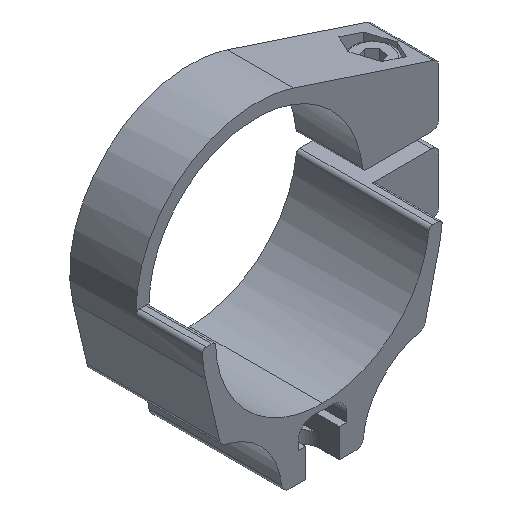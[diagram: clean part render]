
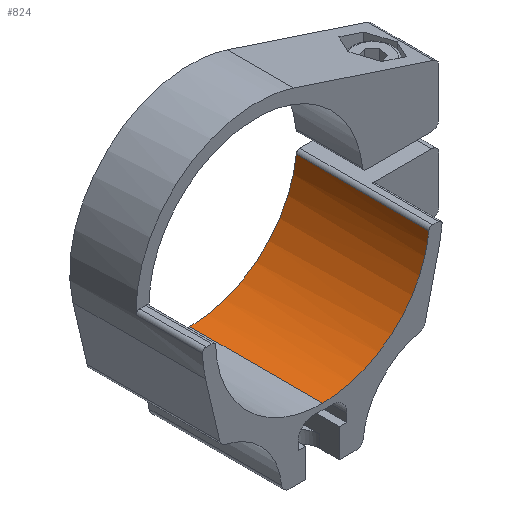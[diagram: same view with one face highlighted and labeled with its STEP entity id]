
A CAD part, isometric view. The second image highlights one B-rep face of the part: STEP entity #824.
In plain terms, the highlighted face is a revolution surface.
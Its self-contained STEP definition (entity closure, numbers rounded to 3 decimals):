
#824=ADVANCED_FACE('',(#1651),#1652,.T.);
#1651=FACE_OUTER_BOUND('',#2538,.T.);
#1652=SURFACE_OF_REVOLUTION('',#2539,#2540);
#2538=EDGE_LOOP('',(#5038,#5039,#5040,#5041));
#2539=B_SPLINE_CURVE_WITH_KNOTS('',1,(#5042,#5043),.UNSPECIFIED.,.F.,.F.,(2,2),(0.0,1.0),.UNSPECIFIED.);
#2540=AXIS1_PLACEMENT('',#5044,#5045);
#5038=ORIENTED_EDGE('',*,*,#6392,.T.);
#5039=ORIENTED_EDGE('',*,*,#6393,.T.);
#5040=ORIENTED_EDGE('',*,*,#6318,.F.);
#5041=ORIENTED_EDGE('',*,*,#6354,.F.);
#5042=CARTESIAN_POINT('',(0.0,9.0,-14.5));
#5043=CARTESIAN_POINT('',(0.0,-9.0,-14.5));
#5044=CARTESIAN_POINT('',(0.0,9.0,0.0));
#5045=DIRECTION('',(-0.0,1.0,-0.0));
#6318=EDGE_CURVE('',#7889,#7891,#7892,.T.);
#6354=EDGE_CURVE('',#7952,#7889,#7954,.T.);
#6392=EDGE_CURVE('',#7952,#8016,#8017,.T.);
#6393=EDGE_CURVE('',#8016,#7891,#8018,.T.);
#7889=VERTEX_POINT('',#10156);
#7891=VERTEX_POINT('',#10198);
#7892=B_SPLINE_CURVE_WITH_KNOTS('',3,(#10199,#10200,#10201,#10202,#10203,#10204,#10205,#10206,#10207,#10208,#10209,#10210,#10211,#10212,#10213,#10214,#10215,#10216,#10217,#10218,#10219,#10220,#10221,#10222),.UNSPECIFIED.,.F.,.F.,(4,1,1,1,1,1,1,1,1,1,1,1,1,1,1,1,1,1,1,1,1,4),(0.0,0.026,0.053,0.079,0.105,0.131,0.158,0.184,0.276,0.368,0.46,0.552,0.735,0.919,1.011,1.103,1.195,1.287,1.333,1.379,1.425,1.471),.UNSPECIFIED.);
#7952=VERTEX_POINT('',#10541);
#7954=B_SPLINE_CURVE_WITH_KNOTS('',1,(#10553,#10554),.UNSPECIFIED.,.F.,.F.,(2,2),(-1.0,0.0),.UNSPECIFIED.);
#8016=VERTEX_POINT('',#10745);
#8017=(B_SPLINE_CURVE(3,(#10747,#10748,#10749,#10750),.UNSPECIFIED.,.F.,.F.)B_SPLINE_CURVE_WITH_KNOTS((4,4),(-1.471,0.0),.UNSPECIFIED.)RATIONAL_B_SPLINE_CURVE((1.0,0.828,0.828,1.0))BOUNDED_CURVE()REPRESENTATION_ITEM('')GEOMETRIC_REPRESENTATION_ITEM()CURVE());
#8018=B_SPLINE_CURVE_WITH_KNOTS('',1,(#10757,#10758),.UNSPECIFIED.,.F.,.F.,(2,2),(-1.0,0.0),.UNSPECIFIED.);
#10156=CARTESIAN_POINT('',(0.,9.0,-14.5));
#10198=CARTESIAN_POINT('',(14.427,9.0,-1.45));
#10199=CARTESIAN_POINT('',(0.,9.0,-14.5));
#10200=CARTESIAN_POINT('',(0.127,9.0,-14.499));
#10201=CARTESIAN_POINT('',(0.381,9.0,-14.497));
#10202=CARTESIAN_POINT('',(0.762,9.0,-14.482));
#10203=CARTESIAN_POINT('',(1.142,9.0,-14.457));
#10204=CARTESIAN_POINT('',(1.52,9.0,-14.422));
#10205=CARTESIAN_POINT('',(1.898,9.0,-14.377));
#10206=CARTESIAN_POINT('',(2.275,9.0,-14.322));
#10207=CARTESIAN_POINT('',(2.963,9.0,-14.203));
#10208=CARTESIAN_POINT('',(3.953,9.0,-13.972));
#10209=CARTESIAN_POINT('',(5.219,9.0,-13.55));
#10210=CARTESIAN_POINT('',(6.441,9.0,-13.014));
#10211=CARTESIAN_POINT('',(7.996,9.0,-12.153));
#10212=CARTESIAN_POINT('',(9.782,9.0,-10.814));
#10213=CARTESIAN_POINT('',(11.292,9.0,-9.171));
#10214=CARTESIAN_POINT('',(12.305,9.0,-7.71));
#10215=CARTESIAN_POINT('',(12.96,9.0,-6.548));
#10216=CARTESIAN_POINT('',(13.507,9.0,-5.331));
#10217=CARTESIAN_POINT('',(13.867,9.0,-4.278));
#10218=CARTESIAN_POINT('',(14.096,9.0,-3.42));
#10219=CARTESIAN_POINT('',(14.238,9.,-2.769));
#10220=CARTESIAN_POINT('',(14.352,9.0,-2.112));
#10221=CARTESIAN_POINT('',(14.402,9.0,-1.671));
#10222=CARTESIAN_POINT('',(14.427,9.0,-1.45));
#10541=CARTESIAN_POINT('',(0.,-9.0,-14.5));
#10553=CARTESIAN_POINT('',(0.,-9.0,-14.5));
#10554=CARTESIAN_POINT('',(0.,9.0,-14.5));
#10745=CARTESIAN_POINT('',(14.427,-9.0,-1.45));
#10747=CARTESIAN_POINT('',(0.0,-9.0,-14.5));
#10748=CARTESIAN_POINT('',(7.834,-9.0,-14.5));
#10749=CARTESIAN_POINT('',(13.644,-9.0,-9.245));
#10750=CARTESIAN_POINT('',(14.427,-9.0,-1.45));
#10757=CARTESIAN_POINT('',(14.427,-9.0,-1.45));
#10758=CARTESIAN_POINT('',(14.427,9.0,-1.45));
